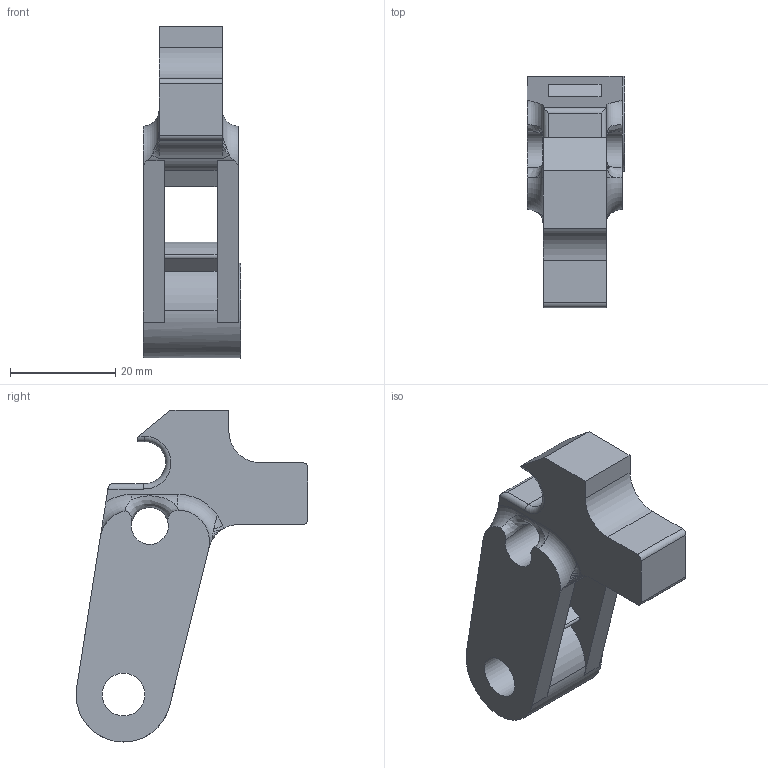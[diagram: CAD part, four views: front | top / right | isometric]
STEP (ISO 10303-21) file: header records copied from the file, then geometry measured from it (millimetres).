
FILE_DESCRIPTION(/* description */ (''),/* implementation_level */ '2;1');
FILE_NAME(/* name */ 'C:/Users/Owner/Desktop/K-CAD Songbird PM4 Centerfire/STEP/Songbird PM4Centerfire Hammer.step',/* time_stamp */ '2020-12-06T00:30:48-05:00',/* author */ (''),/* organization */ (''),/* preprocessor_version */ 'ST-DEVELOPER v18.1',/* originating_system */ 'Autodesk Translation Framework v9.3.0.1241',/* authorisation */ '');
FILE_SCHEMA (('CONFIG_CONTROL_DESIGN','AUTOMOTIVE_DESIGN { 1 0 10303 214 3 1 1 }'));
Length unit declared in the file: millimetre
Products named in the file (1): Songbird PM4Centerfire Hammer
Bounding box: 18.5 x 44 x 63 mm (x, y, z)
Volume: 16292.1 mm3; surface area: 6904.5 mm2
Topology: 1 solids, 1 shells, 59 faces, 176 edges, 112 vertices
Faces by surface type: plane 21, cylinder 20, bspline 12, torus 6
Full cylindrical faces by diameter (mm): 7 x1, 8.1 x1, 18 x1
Entity records: 2949 total; most frequent: CARTESIAN_POINT 1373, ORIENTED_EDGE 344, DIRECTION 304, EDGE_CURVE 172, AXIS2_PLACEMENT_3D 118, VERTEX_POINT 112, LINE 68, VECTOR 68
